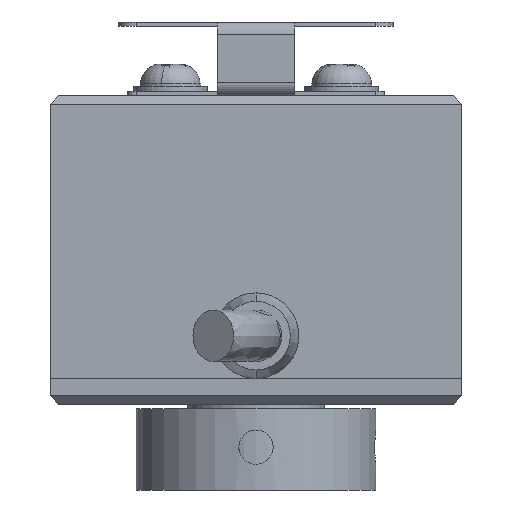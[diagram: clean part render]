
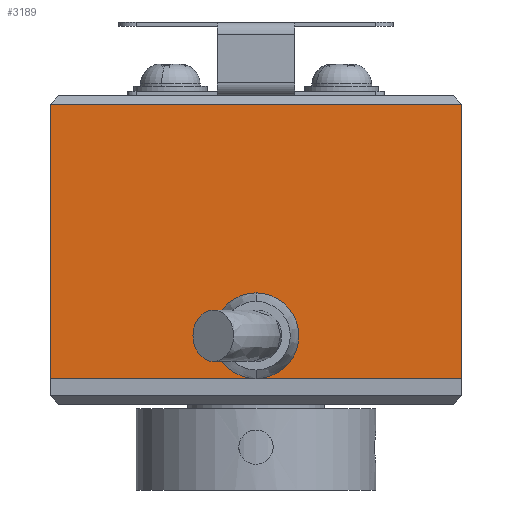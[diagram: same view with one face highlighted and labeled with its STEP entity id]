
A CAD part, front view. The second image highlights one B-rep face of the part: STEP entity #3189.
In plain terms, the highlighted planar face has unit normal (0, -1, 0).
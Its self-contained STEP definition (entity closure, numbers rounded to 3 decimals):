
#3 = CARTESIAN_POINT ( 'NONE',  ( 0., -22., 0. ) ) ;
#127 = EDGE_CURVE ( 'NONE', #1901, #3211, #623, .T. ) ;
#211 = ORIENTED_EDGE ( 'NONE', *, *, #1755, .T. ) ;
#264 = CARTESIAN_POINT ( 'NONE',  ( 0., -22., 0. ) ) ;
#326 = ORIENTED_EDGE ( 'NONE', *, *, #2686, .F. ) ;
#339 = LINE ( 'NONE', #3, #3298 ) ;
#363 = VERTEX_POINT ( 'NONE', #3639 ) ;
#483 = VECTOR ( 'NONE', #4384, 1000. ) ;
#505 = PLANE ( 'NONE',  #3958 ) ;
#543 = LINE ( 'NONE', #4389, #3355 ) ;
#623 = CIRCLE ( 'NONE', #2323, 2.5 ) ;
#684 = EDGE_CURVE ( 'NONE', #363, #2872, #2782, .T. ) ;
#752 = ORIENTED_EDGE ( 'NONE', *, *, #790, .F. ) ;
#790 = EDGE_CURVE ( 'NONE', #3211, #1901, #3479, .T. ) ;
#822 = DIRECTION ( 'NONE',  ( 0., 1., 0. ) ) ;
#1014 = AXIS2_PLACEMENT_3D ( 'NONE', #3025, #1281, #2451 ) ;
#1088 = LINE ( 'NONE', #4528, #1314 ) ;
#1139 = ORIENTED_EDGE ( 'NONE', *, *, #127, .F. ) ;
#1167 = ORIENTED_EDGE ( 'NONE', *, *, #3002, .T. ) ;
#1177 = FACE_OUTER_BOUND ( 'NONE', #3888, .T. ) ;
#1215 = DIRECTION ( 'NONE',  ( 0., 0., -1. ) ) ;
#1281 = DIRECTION ( 'NONE',  ( 0., -1., 0. ) ) ;
#1314 = VECTOR ( 'NONE', #1640, 1000. ) ;
#1608 = VERTEX_POINT ( 'NONE', #1932 ) ;
#1640 = DIRECTION ( 'NONE',  ( 0., 0., -1. ) ) ;
#1755 = EDGE_CURVE ( 'NONE', #2777, #363, #543, .T. ) ;
#1901 = VERTEX_POINT ( 'NONE', #2874 ) ;
#1932 = CARTESIAN_POINT ( 'NONE',  ( 12., -22., 0. ) ) ;
#2323 = AXIS2_PLACEMENT_3D ( 'NONE', #2963, #4362, #1215 ) ;
#2451 = DIRECTION ( 'NONE',  ( 0., 0., -1. ) ) ;
#2484 = DIRECTION ( 'NONE',  ( 1., 0., 0. ) ) ;
#2665 = CARTESIAN_POINT ( 'NONE',  ( -12., -22., 0. ) ) ;
#2686 = EDGE_CURVE ( 'NONE', #2777, #1608, #1088, .T. ) ;
#2706 = VECTOR ( 'NONE', #3396, 1000. ) ;
#2777 = VERTEX_POINT ( 'NONE', #4350 ) ;
#2782 = LINE ( 'NONE', #3309, #483 ) ;
#2872 = VERTEX_POINT ( 'NONE', #2665 ) ;
#2874 = CARTESIAN_POINT ( 'NONE',  ( 0., -22., 5. ) ) ;
#2963 = CARTESIAN_POINT ( 'NONE',  ( 0., -22., 2.5 ) ) ;
#2981 = LINE ( 'NONE', #264, #2706 ) ;
#3002 = EDGE_CURVE ( 'NONE', #3211, #1608, #339, .T. ) ;
#3025 = CARTESIAN_POINT ( 'NONE',  ( 0., -22., 2.5 ) ) ;
#3189 = ADVANCED_FACE ( 'NONE', ( #1177 ), #505, .F. ) ;
#3211 = VERTEX_POINT ( 'NONE', #4429 ) ;
#3222 = DIRECTION ( 'NONE',  ( 0., 0., 1. ) ) ;
#3298 = VECTOR ( 'NONE', #2484, 1000. ) ;
#3309 = CARTESIAN_POINT ( 'NONE',  ( -12., -22., 16.5 ) ) ;
#3329 = EDGE_CURVE ( 'NONE', #2872, #3211, #2981, .T. ) ;
#3355 = VECTOR ( 'NONE', #3679, 1000. ) ;
#3396 = DIRECTION ( 'NONE',  ( 1., 0., 0. ) ) ;
#3403 = ORIENTED_EDGE ( 'NONE', *, *, #3329, .T. ) ;
#3479 = CIRCLE ( 'NONE', #1014, 2.5 ) ;
#3639 = CARTESIAN_POINT ( 'NONE',  ( -12., -22., 16. ) ) ;
#3679 = DIRECTION ( 'NONE',  ( -1., 0., 0. ) ) ;
#3888 = EDGE_LOOP ( 'NONE', ( #3403, #1139, #752, #1167, #326, #211, #4216 ) ) ;
#3958 = AXIS2_PLACEMENT_3D ( 'NONE', #4346, #822, #3222 ) ;
#4216 = ORIENTED_EDGE ( 'NONE', *, *, #684, .T. ) ;
#4346 = CARTESIAN_POINT ( 'NONE',  ( 0., -22., 16.5 ) ) ;
#4350 = CARTESIAN_POINT ( 'NONE',  ( 12., -22., 16. ) ) ;
#4362 = DIRECTION ( 'NONE',  ( 0., -1., 0. ) ) ;
#4384 = DIRECTION ( 'NONE',  ( 0., 0., -1. ) ) ;
#4389 = CARTESIAN_POINT ( 'NONE',  ( -12., -22., 16. ) ) ;
#4429 = CARTESIAN_POINT ( 'NONE',  ( 0., -22., 0. ) ) ;
#4528 = CARTESIAN_POINT ( 'NONE',  ( 12., -22., 16.5 ) ) ;
